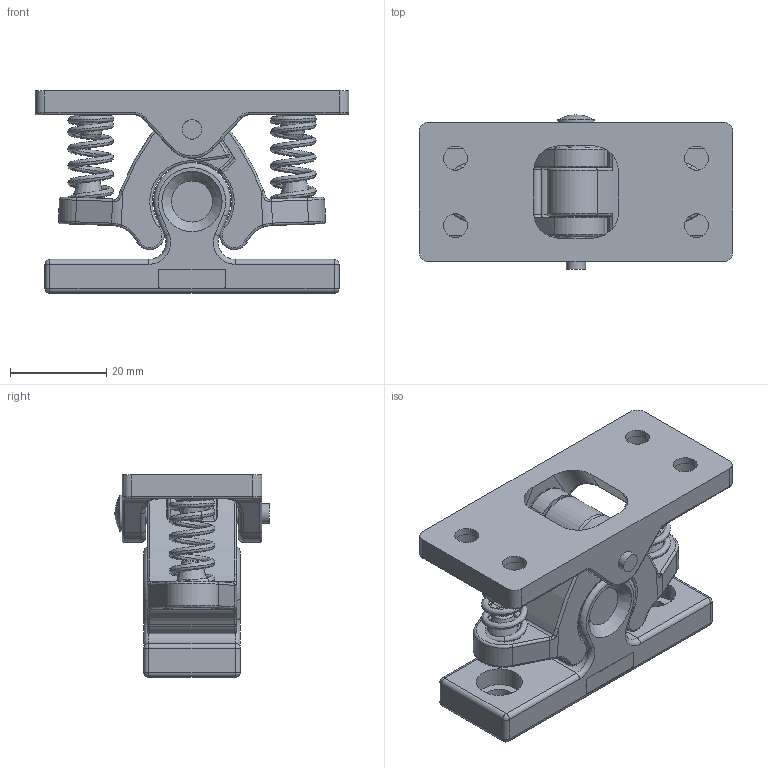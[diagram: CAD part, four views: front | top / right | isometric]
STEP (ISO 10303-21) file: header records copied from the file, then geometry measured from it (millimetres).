
FILE_DESCRIPTION(/* description */ (''),/* implementation_level */ '2;1');
FILE_NAME(/* name */ '\\SYNOLOGYNAS\web\db2\B-3065\도면\B-3065.stp',/* time_stamp */ '2023-01-04T11:52:48+09:00',/* author */ ('user'),/* organization */ (''),/* preprocessor_version */ 'ST-DEVELOPER v15.6',/* originating_system */ 'Autodesk Inventor 2015',/* authorisation */ '');
FILE_SCHEMA (('AUTOMOTIVE_DESIGN { 1 0 10303 214 3 1 1 }'));
Length unit declared in the file: millimetre
Products named in the file (8): MSBR-7; MSBR-6; MSBR-5; MSBR-4; MSBR-3; MSBR-2; MSBR-1; B-3065
Bounding box: 65 x 32 x 41.96 mm (x, y, z)
Volume: 31176.6 mm3; surface area: 17364.6 mm2
Topology: 7 solids, 7 shells, 384 faces, 847 edges, 507 vertices
Faces by surface type: cylinder 145, plane 89, torus 82, bspline 46, sphere 13, cone 9
Full cylindrical faces by diameter (mm): 3 x4, 4 x10, 4.1 x5, 5 x10, 6.2 x2, 7.5 x1, 8 x4, 9.5 x2
Entity records: 17470 total; most frequent: CARTESIAN_POINT 9096, DIRECTION 1828, ORIENTED_EDGE 1574, AXIS2_PLACEMENT_3D 804, EDGE_CURVE 787, VERTEX_POINT 503, EDGE_LOOP 494, CIRCLE 444
